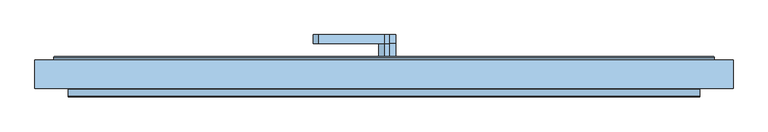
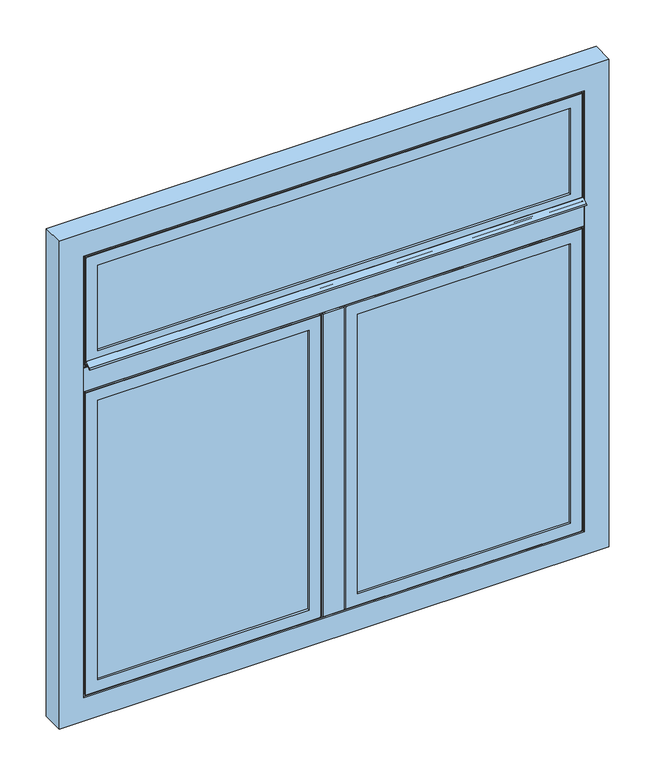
"""IFC4 building model written with IfcOpenShell, lengths in millimetres: window geometry, Dvikrilni prozor s nadsvjetlom : Dvikrilni prozor s nadsvjetlom."""

from ifc_helpers import new_model, si_unit, point, frame, frame_2d, origin, place, context, project, spatial, polyline, circle_curve, ellipse_curve, trimmed, segment, composite_curve, outline, extrude, faceted_brep, source, transform, mapped, element, save
from ifc_brep_helpers import plane_surface, cylinder_surface, advanced_brep


def window_308ad6bf(model_context):
    return source(origin(), model_context, "Body", "SolidModel", [
        advanced_brep(
        [(0.0, 82.9991261, 2246.0017887), (0.0, 82.9991261, 2221.0017887), (-150.0, 82.9991261, 2221.0017887), (-150.0, 82.9991261, 2246.0017887), (0.0, 62.9991261, 2221.0017887), (0.0, 62.9991261, 2246.0017887), (-150.0, 62.9991261, 2246.0017887), (-150.0, 62.9991261, 2221.0017887), (0.0, 32.9991261, 2246.0017887), (0.0, 32.9991261, 2221.0017887)],
        [
            (0, 1, circle_curve(frame((0.0, 82.9991261, 2233.5017887), z_axis=(0.0, 1.0, 0.0), x_axis=(0.0, 0.0, -1.0)), 12.5)),
            (1, 2),
            (2, 3, circle_curve(frame((-150.0, 82.9991261, 2233.5017887), z_axis=(0.0, 1.0, 0.0), x_axis=(0.0, 0.0, -1.0)), 12.5)),
            (3, 0),
            (4, 5, circle_curve(frame((0.0, 62.9991261, 2233.5017887), z_axis=(0.0, 1.0, 0.0), x_axis=(0.0, 0.0, -1.0)), 12.5)),
            (5, 6),
            (6, 7, circle_curve(frame((-150.0, 62.9991261, 2233.5017887), z_axis=(0.0, -1.0, 0.0), x_axis=(0.0, 0.0, -1.0)), 12.5)),
            (7, 4),
            (3, 6),
            (5, 0),
            (2, 7),
            (1, 4),
            (5, 4, circle_curve(frame((0.0, 62.9991261, 2233.5017887), z_axis=(0.0, 1.0, 0.0), x_axis=(0.0, 0.0, -1.0)), 12.5)),
            (8, 9, circle_curve(frame((0.0, 32.9991261, 2233.5017887), z_axis=(0.0, -1.0, 0.0), x_axis=(0.0, 0.0, -1.0)), 12.5)),
            (9, 8, circle_curve(frame((0.0, 32.9991261, 2233.5017887), z_axis=(0.0, -1.0, 0.0), x_axis=(0.0, 0.0, -1.0)), 12.5)),
            (8, 5),
            (4, 9),
        ],
        [
            plane_surface(frame((0.0, 82.9991261, 2246.0017887), z_axis=(0.0, 1.0, 0.0), x_axis=(-1.0, 0.0, 0.0))),
            plane_surface(frame((0.0, 62.9991261, 2246.0017887), z_axis=(0.0, -1.0, 0.0), x_axis=(1.0, 0.0, 0.0))),
            plane_surface(frame((0.0, 82.9991261, 2246.0017887), z_axis=(0.0, 0.0, 1.0), x_axis=(0.0, -1.0, 0.0))),
            cylinder_surface(frame((-150.0, 62.9991261, 2233.5017887), z_axis=(0.0, 1.0, 0.0), x_axis=(0.0, 0.0, -1.0)), 12.5),
            plane_surface(frame((-150.0, 82.9991261, 2221.0017887), z_axis=(0.0, 0.0, -1.0), x_axis=(0.0, -1.0, 0.0))),
            cylinder_surface(frame((0.0, 62.9991261, 2233.5017887), z_axis=(0.0, 1.0, 0.0), x_axis=(0.0, 0.0, -1.0)), 12.5),
            plane_surface(frame((0.0, 32.9991261, 2221.0017887), z_axis=(0.0, -1.0, 0.0), x_axis=(-1.0, 0.0, 0.0))),
            cylinder_surface(frame((0.0, 32.9991261, 2233.5017887), z_axis=(0.0, 1.0, 0.0), x_axis=(0.0, 0.0, -1.0)), 12.5),
        ],
        [
            (0, [[1, 2, 3, 4]]),
            (1, [[5, 6, 7, 8]]),
            (2, [[9, -6, 10, -4]]),
            (3, [[11, -7, -9, -3]]),
            (4, [[12, -8, -11, -2]]),
            (5, [[-10, 13, -12, -1]]),
            (6, [[14, 15]]),
            (7, [[16, -5, 17, -14]]),
            (7, [[-17, -13, -16, -15]]),
        ],
    ),
        extrude(outline(polyline([(-702.9996296, -33.0034524), (-702.9996296, 4.9964652), (702.9996296, 4.9964652), (702.9996296, -33.0034524), (-702.9996296, -33.0034524)])), frame((0.0, 0.0, 1919.5003704), z_axis=(0.0, 0.0, 1.0), x_axis=(1.0, 0.0, 0.0)), (0.0, 0.0, 1.0), 293.4992592),
        advanced_brep(
        [(722.7166787, -40.0008738, 2232.7166787), (722.7166787, -40.0008738, 1899.7833213), (723.5166787, -39.2008738, 1898.9833213), (723.5166787, -39.2008738, 2233.5166787), (687.9942611, -33.0034524, 2197.9942611), (687.9942611, -33.0034524, 1934.5057389), (687.9942611, -40.0008738, 1934.5057389), (687.9942611, -40.0008738, 2197.9942611), (702.9945196, 4.9964652, 2212.9945196), (702.9945196, 4.9964652, 1919.5054804), (702.9945196, -33.0034524, 1919.5054804), (702.9945196, -33.0034524, 2212.9945196), (687.9942611, 32.998105, 2197.9942611), (687.9942611, 32.998105, 1934.5057389), (687.9942611, 4.9964652, 1934.5057389), (687.9942611, 4.9964652, 2197.9942611), (756.4943766, 30.998105, 2266.4943766), (756.4943766, 30.998105, 1866.0056234), (754.4943766, 32.998105, 1868.0056234), (754.4943766, 32.998105, 2264.4943766), (756.4943766, 25.0022699, 2266.4943766), (756.4943766, 25.0022699, 1866.0056234), (738.9942671, -34.497265, 2248.9942671), (738.9942671, -34.497265, 1883.5057329), (738.9942671, 25.0022699, 1883.5057329), (738.9942671, 25.0022699, 2248.9942671), (723.5166787, -34.497265, 1898.9833213), (723.5166787, -34.497265, 2233.5166787), (-722.7166787, -40.0008738, 1899.7833213), (-723.5166787, -39.2008738, 1898.9833213), (-687.9942611, -33.0034524, 1934.5057389), (-687.9942611, -40.0008738, 1934.5057389), (-702.9945196, 4.9964652, 1919.5054804), (-702.9945196, -33.0034524, 1919.5054804), (-687.9942611, 32.998105, 1934.5057389), (-687.9942611, 4.9964652, 1934.5057389), (-756.4943766, 30.998105, 1866.0056234), (-754.4943766, 32.998105, 1868.0056234), (-756.4943766, 25.0022699, 1866.0056234), (-738.9942671, -34.497265, 1883.5057329), (-738.9942671, 25.0022699, 1883.5057329), (-723.5166787, -34.497265, 1898.9833213), (-722.7166787, -40.0008738, 2232.7166787), (-723.5166787, -39.2008738, 2233.5166787), (-687.9942611, -33.0034524, 2197.9942611), (-687.9942611, -40.0008738, 2197.9942611), (-702.9945196, 4.9964652, 2212.9945196), (-702.9945196, -33.0034524, 2212.9945196), (-687.9942611, 32.998105, 2197.9942611), (-687.9942611, 4.9964652, 2197.9942611), (-756.4943766, 30.998105, 2266.4943766), (-754.4943766, 32.998105, 2264.4943766), (-756.4943766, 25.0022699, 2266.4943766), (-738.9942671, -34.497265, 2248.9942671), (-738.9942671, 25.0022699, 2248.9942671), (-723.5166787, -34.497265, 2233.5166787)],
        [
            (0, 1),
            (1, 2, ellipse_curve(frame((722.7166787, -39.2008738, 1899.7833213), z_axis=(0.7071067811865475, 0.0, 0.7071067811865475), x_axis=(-0.7071067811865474, 0.0, 0.7071067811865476)), 1.1313708, 0.8)),
            (2, 3),
            (3, 0, ellipse_curve(frame((722.7166787, -39.2008738, 2232.7166787), z_axis=(0.7071067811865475, 0.0, -0.7071067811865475), x_axis=(0.7071067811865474, 0.0, 0.7071067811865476)), 1.1313708, 0.8)),
            (4, 5),
            (5, 6),
            (6, 7),
            (7, 4),
            (8, 9),
            (9, 10),
            (10, 11),
            (11, 8),
            (12, 13),
            (13, 14),
            (14, 15),
            (15, 12),
            (16, 17),
            (17, 18, ellipse_curve(frame((754.4943766, 30.998105, 1868.0056234), z_axis=(0.7071067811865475, 0.0, 0.7071067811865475), x_axis=(-0.7071067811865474, 0.0, 0.7071067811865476)), 2.8284271, 2.0)),
            (18, 19),
            (19, 16, ellipse_curve(frame((754.4943766, 30.998105, 2264.4943766), z_axis=(0.7071067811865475, 0.0, -0.7071067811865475), x_axis=(0.7071067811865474, 0.0, 0.7071067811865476)), 2.8284271, 2.0)),
            (20, 21),
            (21, 17),
            (16, 20),
            (22, 23),
            (23, 24),
            (24, 25),
            (25, 22),
            (2, 26),
            (26, 27),
            (27, 3),
            (1, 28),
            (28, 29, ellipse_curve(frame((-722.7166787, -39.2008738, 1899.7833213), z_axis=(0.7071067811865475, 0.0, -0.7071067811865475), x_axis=(0.7071067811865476, 0.0, 0.7071067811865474)), 1.1313708, 0.8)),
            (29, 2),
            (5, 30),
            (30, 31),
            (31, 6),
            (9, 32),
            (32, 33),
            (33, 10),
            (13, 34),
            (34, 35),
            (35, 14),
            (17, 36),
            (36, 37, ellipse_curve(frame((-754.4943766, 30.998105, 1868.0056234), z_axis=(0.7071067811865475, 0.0, -0.7071067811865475), x_axis=(0.7071067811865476, 0.0, 0.7071067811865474)), 2.8284271, 2.0)),
            (37, 18),
            (21, 38),
            (38, 36),
            (23, 39),
            (39, 40),
            (40, 24),
            (29, 41),
            (41, 26),
            (28, 42),
            (42, 43, ellipse_curve(frame((-722.7166787, -39.2008738, 2232.7166787), z_axis=(-0.7071067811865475, 0.0, -0.7071067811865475), x_axis=(0.7071067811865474, 0.0, -0.7071067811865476)), 1.1313708, 0.8)),
            (43, 29),
            (30, 44),
            (44, 45),
            (45, 31),
            (32, 46),
            (46, 47),
            (47, 33),
            (34, 48),
            (48, 49),
            (49, 35),
            (36, 50),
            (50, 51, ellipse_curve(frame((-754.4943766, 30.998105, 2264.4943766), z_axis=(-0.7071067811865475, 0.0, -0.7071067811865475), x_axis=(0.7071067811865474, 0.0, -0.7071067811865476)), 2.8284271, 2.0)),
            (51, 37),
            (38, 52),
            (52, 50),
            (39, 53),
            (53, 54),
            (54, 40),
            (43, 55),
            (55, 41),
            (42, 0),
            (3, 43),
            (45, 7),
            (44, 4),
            (47, 11),
            (46, 8),
            (49, 15),
            (48, 12),
            (51, 19),
            (50, 16),
            (52, 20),
            (54, 25),
            (53, 22),
            (55, 27),
        ],
        [
            cylinder_surface(frame((722.7166787, -39.2008738, 2310.0), z_axis=(0.0, 0.0, 1.0), x_axis=(0.0, -1.0, 0.0)), 0.8),
            plane_surface(frame((687.9942611, -40.0008738, 2197.9942611), z_axis=(-1.0, 0.0, 0.0), x_axis=(0.0, 0.0, -1.0))),
            plane_surface(frame((702.9945196, -33.0034524, 2212.9945196), z_axis=(-1.0, 0.0, 0.0), x_axis=(0.0, 0.0, -1.0))),
            plane_surface(frame((687.9942611, 4.9964652, 2197.9942611), z_axis=(-1.0, 0.0, 0.0), x_axis=(0.0, 0.0, -1.0))),
            cylinder_surface(frame((754.4943766, 30.998105, 2310.0), z_axis=(0.0, 0.0, 1.0), x_axis=(1.0, 0.0, 0.0)), 2.0),
            plane_surface(frame((756.4943766, 30.998105, 2266.4943766), z_axis=(1.0, 0.0, 0.0), x_axis=(0.0, 0.0, -1.0))),
            plane_surface(frame((738.9942671, 25.0022699, 2248.9942671), z_axis=(1.0, 0.0, 0.0), x_axis=(0.0, 0.0, -1.0))),
            plane_surface(frame((723.5166787, -34.497265, 2233.5166787), z_axis=(1.0, 0.0, 0.0), x_axis=(0.0, 0.0, -1.0))),
            cylinder_surface(frame((800.0, -39.2008738, 1899.7833213), z_axis=(1.0, 0.0, 0.0), x_axis=(0.0, -1.0, 0.0)), 0.8),
            plane_surface(frame((687.9942611, -40.0008738, 1934.5057389), z_axis=(0.0, 0.0, 1.0), x_axis=(-1.0, 0.0, 0.0))),
            plane_surface(frame((702.9945196, -33.0034524, 1919.5054804), z_axis=(0.0, 0.0, 1.0), x_axis=(-1.0, 0.0, 0.0))),
            plane_surface(frame((687.9942611, 4.9964652, 1934.5057389), z_axis=(0.0, 0.0, 1.0), x_axis=(-1.0, 0.0, 0.0))),
            cylinder_surface(frame((800.0, 30.998105, 1868.0056234), z_axis=(1.0, 0.0, 0.0), x_axis=(0.0, 0.0, -1.0)), 2.0),
            plane_surface(frame((756.4943766, 30.998105, 1866.0056234), z_axis=(0.0, 0.0, -1.0), x_axis=(-1.0, 0.0, 0.0))),
            plane_surface(frame((738.9942671, 25.0022699, 1883.5057329), z_axis=(0.0, 0.0, -1.0), x_axis=(-1.0, 0.0, 0.0))),
            plane_surface(frame((723.5166787, -34.497265, 1898.9833213), z_axis=(0.0, 0.0, -1.0), x_axis=(-1.0, 0.0, 0.0))),
            cylinder_surface(frame((-722.7166787, -39.2008738, 1822.5), z_axis=(0.0, 0.0, -1.0), x_axis=(0.0, -1.0, 0.0)), 0.8),
            plane_surface(frame((-687.9942611, -40.0008738, 1934.5057389), z_axis=(1.0, 0.0, 0.0), x_axis=(0.0, 0.0, 1.0))),
            plane_surface(frame((-702.9945196, -33.0034524, 1919.5054804), z_axis=(1.0, 0.0, 0.0), x_axis=(0.0, 0.0, 1.0))),
            plane_surface(frame((-687.9942611, 4.9964652, 1934.5057389), z_axis=(1.0, 0.0, 0.0), x_axis=(0.0, 0.0, 1.0))),
            cylinder_surface(frame((-754.4943766, 30.998105, 1822.5), z_axis=(0.0, 0.0, -1.0), x_axis=(-1.0, 0.0, 0.0)), 2.0),
            plane_surface(frame((-756.4943766, 30.998105, 1866.0056234), z_axis=(-1.0, 0.0, 0.0), x_axis=(0.0, 0.0, 1.0))),
            plane_surface(frame((-738.9942671, 25.0022699, 1883.5057329), z_axis=(-1.0, 0.0, 0.0), x_axis=(0.0, 0.0, 1.0))),
            plane_surface(frame((-723.5166787, -34.497265, 1898.9833213), z_axis=(-1.0, 0.0, 0.0), x_axis=(0.0, 0.0, 1.0))),
            cylinder_surface(frame((-800.0, -39.2008738, 2232.7166787), z_axis=(-1.0, 0.0, 0.0), x_axis=(0.0, -1.0, 0.0)), 0.8),
            plane_surface(frame((-722.7166787, -40.0008738, 2232.7166787), z_axis=(0.0, -1.0, 0.0), x_axis=(1.0, 0.0, 0.0))),
            plane_surface(frame((-687.9942611, -40.0008738, 2197.9942611), z_axis=(0.0, 0.0, -1.0), x_axis=(1.0, 0.0, 0.0))),
            plane_surface(frame((-687.9942611, -33.0034524, 2197.9942611), z_axis=(0.0, 1.0, 0.0), x_axis=(1.0, 0.0, 0.0))),
            plane_surface(frame((-702.9945196, -33.0034524, 2212.9945196), z_axis=(0.0, 0.0, -1.0), x_axis=(1.0, 0.0, 0.0))),
            plane_surface(frame((-702.9945196, 4.9964652, 2212.9945196), z_axis=(0.0, -1.0, 0.0), x_axis=(1.0, 0.0, 0.0))),
            plane_surface(frame((-687.9942611, 4.9964652, 2197.9942611), z_axis=(0.0, 0.0, -1.0), x_axis=(1.0, 0.0, 0.0))),
            plane_surface(frame((-687.9942611, 32.998105, 2197.9942611), z_axis=(0.0, 1.0, 0.0), x_axis=(1.0, 0.0, 0.0))),
            cylinder_surface(frame((-800.0, 30.998105, 2264.4943766), z_axis=(-1.0, 0.0, 0.0), x_axis=(0.0, 0.0, 1.0)), 2.0),
            plane_surface(frame((-756.4943766, 30.998105, 2266.4943766), z_axis=(0.0, 0.0, 1.0), x_axis=(1.0, 0.0, 0.0))),
            plane_surface(frame((-756.4943766, 25.0022699, 2266.4943766), z_axis=(0.0, -1.0, 0.0), x_axis=(1.0, 0.0, 0.0))),
            plane_surface(frame((-738.9942671, 25.0022699, 2248.9942671), z_axis=(0.0, 0.0, 1.0), x_axis=(1.0, 0.0, 0.0))),
            plane_surface(frame((-738.9942671, -34.497265, 2248.9942671), z_axis=(0.0, -1.0, 0.0), x_axis=(1.0, 0.0, 0.0))),
            plane_surface(frame((-723.5166787, -34.497265, 2233.5166787), z_axis=(0.0, 0.0, 1.0), x_axis=(1.0, 0.0, 0.0))),
        ],
        [
            (0, [[1, 2, 3, 4]]),
            (1, [[5, 6, 7, 8]]),
            (2, [[9, 10, 11, 12]]),
            (3, [[13, 14, 15, 16]]),
            (4, [[17, 18, 19, 20]]),
            (5, [[21, 22, -17, 23]]),
            (6, [[24, 25, 26, 27]]),
            (7, [[-3, 28, 29, 30]]),
            (8, [[31, 32, 33, -2]]),
            (9, [[34, 35, 36, -6]]),
            (10, [[37, 38, 39, -10]]),
            (11, [[40, 41, 42, -14]]),
            (12, [[43, 44, 45, -18]]),
            (13, [[46, 47, -43, -22]]),
            (14, [[48, 49, 50, -25]]),
            (15, [[-33, 51, 52, -28]]),
            (16, [[53, 54, 55, -32]]),
            (17, [[56, 57, 58, -35]]),
            (18, [[59, 60, 61, -38]]),
            (19, [[62, 63, 64, -41]]),
            (20, [[65, 66, 67, -44]]),
            (21, [[68, 69, -65, -47]]),
            (22, [[70, 71, 72, -49]]),
            (23, [[-55, 73, 74, -51]]),
            (24, [[75, -4, 76, -54]]),
            (25, [[-1, -75, -53, -31], [-7, -36, -58, 77]]),
            (26, [[78, -8, -77, -57]]),
            (27, [[-11, -39, -61, 79], [-5, -78, -56, -34]]),
            (28, [[80, -12, -79, -60]]),
            (29, [[-9, -80, -59, -37], [-15, -42, -64, 81]]),
            (30, [[82, -16, -81, -63]]),
            (31, [[-19, -45, -67, 83], [-13, -82, -62, -40]]),
            (32, [[84, -20, -83, -66]]),
            (33, [[85, -23, -84, -69]]),
            (34, [[-21, -85, -68, -46], [-26, -50, -72, 86]]),
            (35, [[87, -27, -86, -71]]),
            (36, [[-24, -87, -70, -48], [-29, -52, -74, 88]]),
            (37, [[-76, -30, -88, -73]]),
        ],
    ),
        extrude(outline(composite_curve([segment(polyline([(-58.5478309, 1898.9982113), (-59.9785357, 1898.9982113)]), True, "CONTINUOUS"), segment(trimmed(circle_curve(frame_2d((-55.7087925, 1899.5403327)), 4.3040217), [point((-59.9785357, 1898.9982113))], [point((-58.0008438, 1903.1832853))], False, "CARTESIAN"), True, "CONTINUOUS"), segment(polyline([(-58.0008438, 1903.1832853), (-41.0009048, 1912.9982273), (-40.0008738, 1912.9982273), (-40.0008738, 1898.9982113), (-41.4112864, 1898.9982113), (-41.4008678, 1901.9130223), (-45.4008802, 1908.8413742), (-57.4008741, 1901.9131205)]), True, "CONTINUOUS"), segment(trimmed(circle_curve(frame_2d((-55.4138384, 1899.4481562)), 3.1661269), [point((-57.4008741, 1901.9131205))], [point((-58.5478309, 1898.9982113))], True, "CARTESIAN"), True, "CONTINUOUS")], self_intersect=False)), frame((-723.5017887, 0.0, 0.0), z_axis=(1.0, 0.0, 0.0), x_axis=(0.0, 1.0, 0.0)), (0.0, 0.0, 1.0), 1447.0035774),
        advanced_brep(
        [(1.400143, 32.9958929, 1243.4), (26.400143, 32.9958929, 1243.4), (1.400143, 62.9958929, 1243.4), (26.400143, 62.9958929, 1243.4), (1.400143, 82.9958929, 1243.4), (26.400143, 82.9958929, 1243.4), (26.400143, 82.9958929, 1043.4), (1.400143, 82.9958929, 1043.4), (1.400143, 62.9958929, 1043.4), (26.400143, 62.9958929, 1043.4)],
        [
            (0, 1, circle_curve(frame((13.900143, 32.9958929, 1243.4), z_axis=(0.0, -1.0, 0.0), x_axis=(1.0, 0.0, 0.0)), 12.5)),
            (1, 0, circle_curve(frame((13.900143, 32.9958929, 1243.4), z_axis=(0.0, -1.0, 0.0), x_axis=(1.0, 0.0, 0.0)), 12.5)),
            (0, 2),
            (2, 3, circle_curve(frame((13.900143, 62.9958929, 1243.4), z_axis=(0.0, -1.0, 0.0), x_axis=(1.0, 0.0, 0.0)), 12.5)),
            (3, 1),
            (3, 2, circle_curve(frame((13.900143, 62.9958929, 1243.4), z_axis=(0.0, -1.0, 0.0), x_axis=(1.0, 0.0, 0.0)), 12.5)),
            (4, 5, circle_curve(frame((13.900143, 82.9958929, 1243.4), z_axis=(0.0, 1.0, 0.0), x_axis=(1.0, 0.0, 0.0)), 12.5)),
            (5, 6),
            (6, 7, circle_curve(frame((13.900143, 82.9958929, 1043.4), z_axis=(0.0, 1.0, 0.0), x_axis=(1.0, 0.0, 0.0)), 12.5)),
            (7, 4),
            (2, 8),
            (8, 9, circle_curve(frame((13.900143, 62.9958929, 1043.4), z_axis=(0.0, -1.0, 0.0), x_axis=(1.0, 0.0, 0.0)), 12.5)),
            (9, 3),
            (7, 8),
            (2, 4),
            (6, 9),
            (5, 3),
        ],
        [
            plane_surface(frame((26.400143, 32.9958929, 1243.4), z_axis=(0.0, -1.0, 0.0), x_axis=(0.0, 0.0, -1.0))),
            cylinder_surface(frame((13.900143, 32.9958929, 1243.4), z_axis=(0.0, 1.0, 0.0), x_axis=(1.0, 0.0, 0.0)), 12.5),
            plane_surface(frame((1.400143, 82.9958929, 1243.4), z_axis=(0.0, 1.0, 0.0), x_axis=(0.0, 0.0, -1.0))),
            plane_surface(frame((1.400143, 62.9958929, 1243.4), z_axis=(0.0, -1.0, 0.0), x_axis=(0.0, 0.0, 1.0))),
            plane_surface(frame((1.400143, 82.9958929, 1243.4), z_axis=(-1.0, 0.0, 0.0), x_axis=(0.0, -1.0, 0.0))),
            cylinder_surface(frame((13.900143, 62.9958929, 1043.4), z_axis=(0.0, 1.0, 0.0), x_axis=(1.0, 0.0, 0.0)), 12.5),
            plane_surface(frame((26.400143, 82.9958929, 1043.4), z_axis=(1.0, 0.0, 0.0), x_axis=(0.0, -1.0, 0.0))),
            cylinder_surface(frame((13.900143, 62.9958929, 1243.4), z_axis=(0.0, 1.0, 0.0), x_axis=(1.0, 0.0, 0.0)), 12.5),
        ],
        [
            (0, [[1, 2]]),
            (1, [[3, 4, 5, -1]]),
            (1, [[-5, 6, -3, -2]]),
            (2, [[7, 8, 9, 10]]),
            (3, [[-4, 11, 12, 13]]),
            (4, [[14, -11, 15, -10]]),
            (5, [[16, -12, -14, -9]]),
            (6, [[17, -13, -16, -8]]),
            (7, [[-15, -6, -17, -7]]),
        ],
    ),
        extrude(outline(polyline([(702.9945696, 4.9964364), (702.9945696, -33.0034813), (53.5, -33.0034813), (53.5, 4.9964364), (702.9945696, 4.9964364)])), frame((0.0, 0.0, 907.0054304), z_axis=(0.0, 0.0, 1.0), x_axis=(1.0, 0.0, 0.0)), (0.0, 0.0, 1.0), 889.4891393),
        advanced_brep(
        [(0.000193, 30.9980762, 1849.9943766), (0.000193, 30.9980762, 853.5056234), (0.000193, 25.0022411, 853.5056234), (0.000193, 25.0022411, 1849.9943766), (756.4943766, 25.0022411, 853.5056234), (756.4943766, 25.0022411, 1849.9943766), (17.5003025, 25.0022411, 871.0057329), (17.5003025, 25.0022411, 1832.4942671), (738.9942671, 25.0022411, 1832.4942671), (738.9942671, 25.0022411, 871.0057329), (756.4943766, 30.9980762, 853.5056234), (2.000193, 32.9980762, 1847.9943766), (2.000193, 32.9980762, 855.5056234), (17.5003025, -34.4972938, 871.0057329), (17.5003025, -34.4972938, 1832.4942671), (738.9942671, -34.4972938, 871.0057329), (738.9942671, -34.4972938, 1832.4942671), (32.9778909, -34.4972938, 886.4833213), (32.9778909, -34.4972938, 1817.0166787), (723.5166787, -34.4972938, 1817.0166787), (723.5166787, -34.4972938, 886.4833213), (32.9778909, -39.2009026, 886.4833213), (32.9778909, -39.2009026, 1817.0166787), (33.7778909, -40.0009026, 887.2833213), (33.7778909, -40.0009026, 1816.2166787), (723.5166787, -39.2009026, 886.4833213), (68.5003085, -40.0009026, 1781.4942611), (68.5003085, -40.0009026, 922.0057389), (68.5003085, -33.0034813, 922.0057389), (68.5003085, -33.0034813, 1781.4942611), (53.5000501, -33.0034813, 907.0054804), (53.5000501, -33.0034813, 1796.4945196), (702.9945196, -33.0034813, 1796.4945196), (702.9945196, -33.0034813, 907.0054804), (687.9942611, -33.0034813, 922.0057389), (687.9942611, -33.0034813, 1781.4942611), (687.9942611, -40.0009026, 922.0057389), (722.7166787, -40.0009026, 887.2833213), (722.7166787, -40.0009026, 1816.2166787), (687.9942611, -40.0009026, 1781.4942611), (53.5000501, 4.9964364, 907.0054804), (53.5000501, 4.9964364, 1796.4945196), (702.9945196, 4.9964364, 907.0054804), (702.9945196, 4.9964364, 1796.4945196), (68.5003085, 4.9964364, 922.0057389), (68.5003085, 4.9964364, 1781.4942611), (687.9942611, 4.9964364, 1781.4942611), (687.9942611, 4.9964364, 922.0057389), (68.5003085, 32.9980762, 922.0057389), (68.5003085, 32.9980762, 1781.4942611), (754.4943766, 32.9980762, 1847.9943766), (754.4943766, 32.9980762, 855.5056234), (687.9942611, 32.9980762, 922.0057389), (687.9942611, 32.9980762, 1781.4942611), (756.4943766, 30.9980762, 1849.9943766), (723.5166787, -39.2009026, 1817.0166787)],
        [
            (0, 1),
            (1, 2),
            (2, 3),
            (3, 0),
            (2, 4),
            (4, 5),
            (5, 3),
            (6, 7),
            (7, 8),
            (8, 9),
            (9, 6),
            (1, 10),
            (10, 4),
            (11, 12),
            (12, 1, ellipse_curve(frame((2.000193, 30.9980762, 855.5056234), z_axis=(-0.7071067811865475, 0.0, 0.7071067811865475), x_axis=(0.7071067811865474, 0.0, 0.7071067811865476)), 2.8284271, 2.0)),
            (0, 11, ellipse_curve(frame((2.000193, 30.9980762, 1847.9943766), z_axis=(-0.7071067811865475, 0.0, -0.7071067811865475), x_axis=(-0.7071067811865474, 0.0, 0.7071067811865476)), 2.8284271, 2.0)),
            (6, 13),
            (13, 14),
            (14, 7),
            (13, 15),
            (15, 16),
            (16, 14),
            (17, 18),
            (18, 19),
            (19, 20),
            (20, 17),
            (9, 15),
            (17, 21),
            (21, 22),
            (22, 18),
            (21, 23, ellipse_curve(frame((33.7778909, -39.2009026, 887.2833213), z_axis=(-0.7071067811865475, 0.0, 0.7071067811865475), x_axis=(0.7071067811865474, 0.0, 0.7071067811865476)), 1.1313708, 0.8)),
            (23, 24),
            (24, 22, ellipse_curve(frame((33.7778909, -39.2009026, 1816.2166787), z_axis=(-0.7071067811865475, 0.0, -0.7071067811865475), x_axis=(-0.7071067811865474, 0.0, 0.7071067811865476)), 1.1313708, 0.8)),
            (20, 25),
            (25, 21),
            (26, 27),
            (27, 28),
            (28, 29),
            (29, 26),
            (30, 31),
            (31, 32),
            (32, 33),
            (33, 30),
            (28, 34),
            (34, 35),
            (35, 29),
            (27, 36),
            (36, 34),
            (23, 37),
            (37, 38),
            (38, 24),
            (26, 39),
            (39, 36),
            (30, 40),
            (40, 41),
            (41, 31),
            (40, 42),
            (42, 43),
            (43, 41),
            (44, 45),
            (45, 46),
            (46, 47),
            (47, 44),
            (33, 42),
            (44, 48),
            (48, 49),
            (49, 45),
            (11, 50),
            (50, 51),
            (51, 12),
            (48, 52),
            (52, 53),
            (53, 49),
            (47, 52),
            (10, 54),
            (54, 5),
            (51, 10, ellipse_curve(frame((754.4943766, 30.9980762, 855.5056234), z_axis=(-0.7071067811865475, 0.0, -0.7071067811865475), x_axis=(-0.7071067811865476, 0.0, 0.7071067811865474)), 2.8284271, 2.0)),
            (8, 16),
            (25, 37, ellipse_curve(frame((722.7166787, -39.2009026, 887.2833213), z_axis=(-0.7071067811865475, 0.0, -0.7071067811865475), x_axis=(-0.7071067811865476, 0.0, 0.7071067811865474)), 1.1313708, 0.8)),
            (19, 55),
            (55, 25),
            (39, 35),
            (32, 43),
            (46, 53),
            (50, 54, ellipse_curve(frame((754.4943766, 30.9980762, 1847.9943766), z_axis=(0.7071067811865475, 0.0, -0.7071067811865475), x_axis=(-0.7071067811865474, 0.0, -0.7071067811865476)), 2.8284271, 2.0)),
            (55, 38, ellipse_curve(frame((722.7166787, -39.2009026, 1816.2166787), z_axis=(0.7071067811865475, 0.0, -0.7071067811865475), x_axis=(-0.7071067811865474, 0.0, -0.7071067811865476)), 1.1313708, 0.8)),
            (54, 0),
            (22, 55),
        ],
        [
            plane_surface(frame((0.000193, 25.0022411, 1849.9943766), z_axis=(-1.0, 0.0, 0.0), x_axis=(0.0, 0.0, -1.0))),
            plane_surface(frame((738.9942671, 25.0022411, 1832.4942671), z_axis=(0.0, -1.0, 0.0), x_axis=(-1.0, 0.0, 0.0))),
            plane_surface(frame((0.000193, 25.0022411, 853.5056234), z_axis=(0.0, 0.0, -1.0), x_axis=(1.0, 0.0, 0.0))),
            cylinder_surface(frame((2.000193, 30.9980762, 1893.5), z_axis=(0.0, 0.0, 1.0), x_axis=(-1.0, 0.0, 0.0)), 2.0),
            plane_surface(frame((17.5003025, -34.4972938, 1832.4942671), z_axis=(-1.0, 0.0, 0.0), x_axis=(0.0, 0.0, -1.0))),
            plane_surface(frame((723.5166787, -34.4972938, 1817.0166787), z_axis=(0.0, -1.0, 0.0), x_axis=(-1.0, 0.0, 0.0))),
            plane_surface(frame((17.5003025, -34.4972938, 871.0057329), z_axis=(0.0, 0.0, -1.0), x_axis=(1.0, 0.0, 0.0))),
            plane_surface(frame((32.9778909, -39.2009026, 1817.0166787), z_axis=(-1.0, 0.0, 0.0), x_axis=(0.0, 0.0, -1.0))),
            cylinder_surface(frame((33.7778909, -39.2009026, 1893.5), z_axis=(0.0, 0.0, 1.0), x_axis=(0.0, -1.0, 0.0)), 0.8),
            plane_surface(frame((32.9778909, -39.2009026, 886.4833213), z_axis=(0.0, 0.0, -1.0), x_axis=(1.0, 0.0, 0.0))),
            plane_surface(frame((68.5003085, -33.0034813, 1781.4942611), z_axis=(1.0, 0.0, 0.0), x_axis=(0.0, 0.0, -1.0))),
            plane_surface(frame((702.9945196, -33.0034813, 1796.4945196), z_axis=(0.0, 1.0, 0.0), x_axis=(-1.0, 0.0, 0.0))),
            plane_surface(frame((68.5003085, -33.0034813, 922.0057389), z_axis=(0.0, 0.0, 1.0), x_axis=(1.0, 0.0, 0.0))),
            plane_surface(frame((687.9942611, -40.0009026, 1781.4942611), z_axis=(0.0, -1.0, 0.0), x_axis=(-1.0, 0.0, 0.0))),
            plane_surface(frame((53.5000501, 4.9964364, 1796.4945196), z_axis=(1.0, 0.0, 0.0), x_axis=(0.0, 0.0, -1.0))),
            plane_surface(frame((687.9942611, 4.9964364, 1781.4942611), z_axis=(0.0, -1.0, 0.0), x_axis=(-1.0, 0.0, 0.0))),
            plane_surface(frame((53.5000501, 4.9964364, 907.0054804), z_axis=(0.0, 0.0, 1.0), x_axis=(1.0, 0.0, 0.0))),
            plane_surface(frame((68.5003085, 32.9980762, 1781.4942611), z_axis=(1.0, 0.0, 0.0), x_axis=(0.0, 0.0, -1.0))),
            plane_surface(frame((754.4943766, 32.9980762, 1847.9943766), z_axis=(0.0, 1.0, 0.0), x_axis=(-1.0, 0.0, 0.0))),
            plane_surface(frame((68.5003085, 32.9980762, 922.0057389), z_axis=(0.0, 0.0, 1.0), x_axis=(1.0, 0.0, 0.0))),
            plane_surface(frame((756.4943766, 25.0022411, 853.5056234), z_axis=(1.0, 0.0, 0.0), x_axis=(0.0, 0.0, 1.0))),
            cylinder_surface(frame((-43.5054304, 30.9980762, 855.5056234), z_axis=(-1.0, 0.0, 0.0), x_axis=(0.0, 0.0, -1.0)), 2.0),
            plane_surface(frame((738.9942671, -34.4972938, 871.0057329), z_axis=(1.0, 0.0, 0.0), x_axis=(0.0, 0.0, 1.0))),
            cylinder_surface(frame((-43.5054304, -39.2009026, 887.2833213), z_axis=(-1.0, 0.0, 0.0), x_axis=(0.0, -1.0, 0.0)), 0.8),
            plane_surface(frame((723.5166787, -39.2009026, 886.4833213), z_axis=(1.0, 0.0, 0.0), x_axis=(0.0, 0.0, 1.0))),
            plane_surface(frame((687.9942611, -33.0034813, 922.0057389), z_axis=(-1.0, 0.0, 0.0), x_axis=(0.0, 0.0, 1.0))),
            plane_surface(frame((702.9945196, 4.9964364, 907.0054804), z_axis=(-1.0, 0.0, 0.0), x_axis=(0.0, 0.0, 1.0))),
            plane_surface(frame((687.9942611, 32.9980762, 922.0057389), z_axis=(-1.0, 0.0, 0.0), x_axis=(0.0, 0.0, 1.0))),
            cylinder_surface(frame((754.4943766, 30.9980762, 810.0), z_axis=(0.0, 0.0, -1.0), x_axis=(1.0, 0.0, 0.0)), 2.0),
            cylinder_surface(frame((722.7166787, -39.2009026, 810.0), z_axis=(0.0, 0.0, -1.0), x_axis=(0.0, -1.0, 0.0)), 0.8),
            plane_surface(frame((756.4943766, 25.0022411, 1849.9943766), z_axis=(0.0, 0.0, 1.0), x_axis=(-1.0, 0.0, 0.0))),
            plane_surface(frame((738.9942671, -34.4972938, 1832.4942671), z_axis=(0.0, 0.0, 1.0), x_axis=(-1.0, 0.0, 0.0))),
            plane_surface(frame((723.5166787, -39.2009026, 1817.0166787), z_axis=(0.0, 0.0, 1.0), x_axis=(-1.0, 0.0, 0.0))),
            plane_surface(frame((687.9942611, -33.0034813, 1781.4942611), z_axis=(0.0, 0.0, -1.0), x_axis=(-1.0, 0.0, 0.0))),
            plane_surface(frame((702.9945196, 4.9964364, 1796.4945196), z_axis=(0.0, 0.0, -1.0), x_axis=(-1.0, 0.0, 0.0))),
            plane_surface(frame((687.9942611, 32.9980762, 1781.4942611), z_axis=(0.0, 0.0, -1.0), x_axis=(-1.0, 0.0, 0.0))),
            cylinder_surface(frame((800.0, 30.9980762, 1847.9943766), z_axis=(1.0, 0.0, 0.0), x_axis=(0.0, 0.0, 1.0)), 2.0),
            cylinder_surface(frame((800.0, -39.2009026, 1816.2166787), z_axis=(1.0, 0.0, 0.0), x_axis=(0.0, -1.0, 0.0)), 0.8),
        ],
        [
            (0, [[1, 2, 3, 4]]),
            (1, [[-3, 5, 6, 7], [8, 9, 10, 11]]),
            (2, [[12, 13, -5, -2]]),
            (3, [[14, 15, -1, 16]]),
            (4, [[-8, 17, 18, 19]]),
            (5, [[-18, 20, 21, 22], [23, 24, 25, 26]]),
            (6, [[-11, 27, -20, -17]]),
            (7, [[-23, 28, 29, 30]]),
            (8, [[-29, 31, 32, 33]]),
            (9, [[-26, 34, 35, -28]]),
            (10, [[36, 37, 38, 39]]),
            (11, [[40, 41, 42, 43], [-38, 44, 45, 46]]),
            (12, [[47, 48, -44, -37]]),
            (13, [[-32, 49, 50, 51], [-36, 52, 53, -47]]),
            (14, [[-40, 54, 55, 56]]),
            (15, [[-55, 57, 58, 59], [60, 61, 62, 63]]),
            (16, [[-43, 64, -57, -54]]),
            (17, [[-60, 65, 66, 67]]),
            (18, [[-14, 68, 69, 70], [-66, 71, 72, 73]]),
            (19, [[-63, 74, -71, -65]]),
            (20, [[75, 76, -6, -13]]),
            (21, [[-70, 77, -12, -15]]),
            (22, [[-10, 78, -21, -27]]),
            (23, [[-35, 79, -49, -31]]),
            (24, [[-25, 80, 81, -34]]),
            (25, [[-53, 82, -45, -48]]),
            (26, [[-42, 83, -58, -64]]),
            (27, [[-62, 84, -72, -74]]),
            (28, [[-69, 85, -75, -77]]),
            (29, [[-81, 86, -50, -79]]),
            (30, [[87, -4, -7, -76]]),
            (31, [[-9, -19, -22, -78]]),
            (32, [[-24, -30, 88, -80]]),
            (33, [[-52, -39, -46, -82]]),
            (34, [[-41, -56, -59, -83]]),
            (35, [[-61, -67, -73, -84]]),
            (36, [[-68, -16, -87, -85]]),
            (37, [[-88, -33, -51, -86]]),
        ],
    ),
        extrude(outline(polyline([(-22.4982197, 25.5079175), (6.0023691, 25.5079175), (6.0023691, -34.4900316), (27.9994894, -34.4900316), (27.9994894, -39.9935617), (-33.0005106, -39.9935617), (-33.0005106, -34.4900316), (-22.4983417, -34.4900316), (-22.4982197, 25.5079175)])), frame((0.0, 0.0, 886.5032713), z_axis=(0.0, 0.0, 1.0), x_axis=(1.0, 0.0, 0.0)), (0.0, 0.0, 1.0), 930.4934575),
        extrude(outline(polyline([(-58.499807, 4.9941954), (-58.499807, -33.0057223), (-702.9945696, -33.0057223), (-702.9945696, 4.9941954), (-58.499807, 4.9941954)])), frame((0.0, 0.0, 907.0054304), z_axis=(0.0, 0.0, 1.0), x_axis=(1.0, 0.0, 0.0)), (0.0, 0.0, 1.0), 889.4891393),
        advanced_brep(
        [(-5.0, 30.9958352, 853.5056234), (-5.0, 30.9958352, 1849.9943766), (-5.0, 25.0, 1849.9943766), (-5.0, 25.0, 853.5056234), (-756.4943766, 25.0, 1849.9943766), (-756.4943766, 25.0, 853.5056234), (-22.5001095, 25.0, 1832.4942671), (-22.5001095, 25.0, 871.0057329), (-738.9942671, 25.0, 871.0057329), (-738.9942671, 25.0, 1832.4942671), (-756.4943766, 30.9958352, 1849.9943766), (-7.0, 32.9958352, 855.5056234), (-7.0, 32.9958352, 1847.9943766), (-22.5001095, -34.4995349, 1832.4942671), (-22.5001095, -34.4995349, 871.0057329), (-738.9942671, -34.4995349, 1832.4942671), (-738.9942671, -34.4995349, 871.0057329), (-37.9776978, -34.4995349, 1817.0166787), (-37.9776978, -34.4995349, 886.4833213), (-723.5166787, -34.4995349, 886.4833213), (-723.5166787, -34.4995349, 1817.0166787), (-37.9776978, -39.2031436, 1817.0166787), (-37.9776978, -39.2031436, 886.4833213), (-38.7776978, -40.0031436, 1816.2166787), (-38.7776978, -40.0031436, 887.2833213), (-723.5166787, -39.2031436, 1817.0166787), (-73.5001155, -40.0031436, 922.0057389), (-73.5001155, -40.0031436, 1781.4942611), (-73.5001155, -33.0057223, 1781.4942611), (-73.5001155, -33.0057223, 922.0057389), (-58.499857, -33.0057223, 1796.4945196), (-58.499857, -33.0057223, 907.0054804), (-702.9945196, -33.0057223, 907.0054804), (-702.9945196, -33.0057223, 1796.4945196), (-687.9942611, -33.0057223, 1781.4942611), (-687.9942611, -33.0057223, 922.0057389), (-687.9942611, -40.0031436, 1781.4942611), (-722.7166787, -40.0031436, 1816.2166787), (-722.7166787, -40.0031436, 887.2833213), (-687.9942611, -40.0031436, 922.0057389), (-58.499857, 4.9941954, 1796.4945196), (-58.499857, 4.9941954, 907.0054804), (-702.9945196, 4.9941954, 1796.4945196), (-702.9945196, 4.9941954, 907.0054804), (-73.5001155, 4.9941954, 1781.4942611), (-73.5001155, 4.9941954, 922.0057389), (-687.9942611, 4.9941954, 922.0057389), (-687.9942611, 4.9941954, 1781.4942611), (-73.5001155, 32.9958352, 1781.4942611), (-73.5001155, 32.9958352, 922.0057389), (-754.4943766, 32.9958352, 855.5056234), (-754.4943766, 32.9958352, 1847.9943766), (-687.9942611, 32.9958352, 1781.4942611), (-687.9942611, 32.9958352, 922.0057389), (-756.4943766, 30.9958352, 853.5056234), (-723.5166787, -39.2031436, 886.4833213)],
        [
            (0, 1),
            (1, 2),
            (2, 3),
            (3, 0),
            (2, 4),
            (4, 5),
            (5, 3),
            (6, 7),
            (7, 8),
            (8, 9),
            (9, 6),
            (1, 10),
            (10, 4),
            (11, 12),
            (12, 1, ellipse_curve(frame((-7.0, 30.9958352, 1847.9943766), z_axis=(0.7071067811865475, 0.0, -0.7071067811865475), x_axis=(-0.7071067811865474, 0.0, -0.7071067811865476)), 2.8284271, 2.0)),
            (0, 11, ellipse_curve(frame((-7.0, 30.9958352, 855.5056234), z_axis=(0.7071067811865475, 0.0, 0.7071067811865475), x_axis=(0.7071067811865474, 0.0, -0.7071067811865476)), 2.8284271, 2.0)),
            (6, 13),
            (13, 14),
            (14, 7),
            (13, 15),
            (15, 16),
            (16, 14),
            (17, 18),
            (18, 19),
            (19, 20),
            (20, 17),
            (9, 15),
            (17, 21),
            (21, 22),
            (22, 18),
            (21, 23, ellipse_curve(frame((-38.7776978, -39.2031436, 1816.2166787), z_axis=(0.7071067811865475, 0.0, -0.7071067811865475), x_axis=(-0.7071067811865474, 0.0, -0.7071067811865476)), 1.1313708, 0.8)),
            (23, 24),
            (24, 22, ellipse_curve(frame((-38.7776978, -39.2031436, 887.2833213), z_axis=(0.7071067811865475, 0.0, 0.7071067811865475), x_axis=(0.7071067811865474, 0.0, -0.7071067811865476)), 1.1313708, 0.8)),
            (20, 25),
            (25, 21),
            (26, 27),
            (27, 28),
            (28, 29),
            (29, 26),
            (30, 31),
            (31, 32),
            (32, 33),
            (33, 30),
            (28, 34),
            (34, 35),
            (35, 29),
            (27, 36),
            (36, 34),
            (23, 37),
            (37, 38),
            (38, 24),
            (26, 39),
            (39, 36),
            (30, 40),
            (40, 41),
            (41, 31),
            (40, 42),
            (42, 43),
            (43, 41),
            (44, 45),
            (45, 46),
            (46, 47),
            (47, 44),
            (33, 42),
            (44, 48),
            (48, 49),
            (49, 45),
            (11, 50),
            (50, 51),
            (51, 12),
            (48, 52),
            (52, 53),
            (53, 49),
            (47, 52),
            (10, 54),
            (54, 5),
            (51, 10, ellipse_curve(frame((-754.4943766, 30.9958352, 1847.9943766), z_axis=(0.7071067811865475, 0.0, 0.7071067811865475), x_axis=(0.7071067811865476, 0.0, -0.7071067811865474)), 2.8284271, 2.0)),
            (8, 16),
            (25, 37, ellipse_curve(frame((-722.7166787, -39.2031436, 1816.2166787), z_axis=(0.7071067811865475, 0.0, 0.7071067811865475), x_axis=(0.7071067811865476, 0.0, -0.7071067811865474)), 1.1313708, 0.8)),
            (19, 55),
            (55, 25),
            (39, 35),
            (32, 43),
            (46, 53),
            (50, 54, ellipse_curve(frame((-754.4943766, 30.9958352, 855.5056234), z_axis=(-0.7071067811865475, 0.0, 0.7071067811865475), x_axis=(0.7071067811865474, 0.0, 0.7071067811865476)), 2.8284271, 2.0)),
            (55, 38, ellipse_curve(frame((-722.7166787, -39.2031436, 887.2833213), z_axis=(-0.7071067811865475, 0.0, 0.7071067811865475), x_axis=(0.7071067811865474, 0.0, 0.7071067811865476)), 1.1313708, 0.8)),
            (54, 0),
            (22, 55),
        ],
        [
            plane_surface(frame((-5.0, 25.0, 853.5056234), z_axis=(1.0, 0.0, 0.0), x_axis=(0.0, 0.0, 1.0))),
            plane_surface(frame((-738.9942671, 25.0, 871.0057329), z_axis=(0.0, -1.0, 0.0), x_axis=(1.0, 0.0, 0.0))),
            plane_surface(frame((-5.0, 25.0, 1849.9943766), z_axis=(0.0, 0.0, 1.0), x_axis=(-1.0, 0.0, 0.0))),
            cylinder_surface(frame((-7.0, 30.9958352, 810.0), z_axis=(0.0, 0.0, -1.0), x_axis=(1.0, 0.0, 0.0)), 2.0),
            plane_surface(frame((-22.5001095, -34.4995349, 871.0057329), z_axis=(1.0, 0.0, 0.0), x_axis=(0.0, 0.0, 1.0))),
            plane_surface(frame((-723.5166787, -34.4995349, 886.4833213), z_axis=(0.0, -1.0, 0.0), x_axis=(1.0, 0.0, 0.0))),
            plane_surface(frame((-22.5001095, -34.4995349, 1832.4942671), z_axis=(0.0, 0.0, 1.0), x_axis=(-1.0, 0.0, 0.0))),
            plane_surface(frame((-37.9776978, -39.2031436, 886.4833213), z_axis=(1.0, 0.0, 0.0), x_axis=(0.0, 0.0, 1.0))),
            cylinder_surface(frame((-38.7776978, -39.2031436, 810.0), z_axis=(0.0, 0.0, -1.0), x_axis=(0.0, -1.0, 0.0)), 0.8),
            plane_surface(frame((-37.9776978, -39.2031436, 1817.0166787), z_axis=(0.0, 0.0, 1.0), x_axis=(-1.0, 0.0, 0.0))),
            plane_surface(frame((-73.5001155, -33.0057223, 922.0057389), z_axis=(-1.0, 0.0, 0.0), x_axis=(0.0, 0.0, 1.0))),
            plane_surface(frame((-702.9945196, -33.0057223, 907.0054804), z_axis=(0.0, 1.0, 0.0), x_axis=(1.0, 0.0, 0.0))),
            plane_surface(frame((-73.5001155, -33.0057223, 1781.4942611), z_axis=(0.0, 0.0, -1.0), x_axis=(-1.0, 0.0, 0.0))),
            plane_surface(frame((-687.9942611, -40.0031436, 922.0057389), z_axis=(0.0, -1.0, 0.0), x_axis=(1.0, 0.0, 0.0))),
            plane_surface(frame((-58.499857, 4.9941954, 907.0054804), z_axis=(-1.0, 0.0, 0.0), x_axis=(0.0, 0.0, 1.0))),
            plane_surface(frame((-687.9942611, 4.9941954, 922.0057389), z_axis=(0.0, -1.0, 0.0), x_axis=(1.0, 0.0, 0.0))),
            plane_surface(frame((-58.499857, 4.9941954, 1796.4945196), z_axis=(0.0, 0.0, -1.0), x_axis=(-1.0, 0.0, 0.0))),
            plane_surface(frame((-73.5001155, 32.9958352, 922.0057389), z_axis=(-1.0, 0.0, 0.0), x_axis=(0.0, 0.0, 1.0))),
            plane_surface(frame((-754.4943766, 32.9958352, 855.5056234), z_axis=(0.0, 1.0, 0.0), x_axis=(1.0, 0.0, 0.0))),
            plane_surface(frame((-73.5001155, 32.9958352, 1781.4942611), z_axis=(0.0, 0.0, -1.0), x_axis=(-1.0, 0.0, 0.0))),
            plane_surface(frame((-756.4943766, 25.0, 1849.9943766), z_axis=(-1.0, 0.0, 0.0), x_axis=(0.0, 0.0, -1.0))),
            cylinder_surface(frame((38.5056234, 30.9958352, 1847.9943766), z_axis=(1.0, 0.0, 0.0), x_axis=(0.0, 0.0, 1.0)), 2.0),
            plane_surface(frame((-738.9942671, -34.4995349, 1832.4942671), z_axis=(-1.0, 0.0, 0.0), x_axis=(0.0, 0.0, -1.0))),
            cylinder_surface(frame((38.5056234, -39.2031436, 1816.2166787), z_axis=(1.0, 0.0, 0.0), x_axis=(0.0, -1.0, 0.0)), 0.8),
            plane_surface(frame((-723.5166787, -39.2031436, 1817.0166787), z_axis=(-1.0, 0.0, 0.0), x_axis=(0.0, 0.0, -1.0))),
            plane_surface(frame((-687.9942611, -33.0057223, 1781.4942611), z_axis=(1.0, 0.0, 0.0), x_axis=(0.0, 0.0, -1.0))),
            plane_surface(frame((-702.9945196, 4.9941954, 1796.4945196), z_axis=(1.0, 0.0, 0.0), x_axis=(0.0, 0.0, -1.0))),
            plane_surface(frame((-687.9942611, 32.9958352, 1781.4942611), z_axis=(1.0, 0.0, 0.0), x_axis=(0.0, 0.0, -1.0))),
            cylinder_surface(frame((-754.4943766, 30.9958352, 1893.5), z_axis=(0.0, 0.0, 1.0), x_axis=(-1.0, 0.0, 0.0)), 2.0),
            cylinder_surface(frame((-722.7166787, -39.2031436, 1893.5), z_axis=(0.0, 0.0, 1.0), x_axis=(0.0, -1.0, 0.0)), 0.8),
            plane_surface(frame((-756.4943766, 25.0, 853.5056234), z_axis=(0.0, 0.0, -1.0), x_axis=(1.0, 0.0, 0.0))),
            plane_surface(frame((-738.9942671, -34.4995349, 871.0057329), z_axis=(0.0, 0.0, -1.0), x_axis=(1.0, 0.0, 0.0))),
            plane_surface(frame((-723.5166787, -39.2031436, 886.4833213), z_axis=(0.0, 0.0, -1.0), x_axis=(1.0, 0.0, 0.0))),
            plane_surface(frame((-687.9942611, -33.0057223, 922.0057389), z_axis=(0.0, 0.0, 1.0), x_axis=(1.0, 0.0, 0.0))),
            plane_surface(frame((-702.9945196, 4.9941954, 907.0054804), z_axis=(0.0, 0.0, 1.0), x_axis=(1.0, 0.0, 0.0))),
            plane_surface(frame((-687.9942611, 32.9958352, 922.0057389), z_axis=(0.0, 0.0, 1.0), x_axis=(1.0, 0.0, 0.0))),
            cylinder_surface(frame((-800.0, 30.9958352, 855.5056234), z_axis=(-1.0, 0.0, 0.0), x_axis=(0.0, 0.0, -1.0)), 2.0),
            cylinder_surface(frame((-800.0, -39.2031436, 887.2833213), z_axis=(-1.0, 0.0, 0.0), x_axis=(0.0, -1.0, 0.0)), 0.8),
        ],
        [
            (0, [[1, 2, 3, 4]]),
            (1, [[-3, 5, 6, 7], [8, 9, 10, 11]]),
            (2, [[12, 13, -5, -2]]),
            (3, [[14, 15, -1, 16]]),
            (4, [[-8, 17, 18, 19]]),
            (5, [[-18, 20, 21, 22], [23, 24, 25, 26]]),
            (6, [[-11, 27, -20, -17]]),
            (7, [[-23, 28, 29, 30]]),
            (8, [[-29, 31, 32, 33]]),
            (9, [[-26, 34, 35, -28]]),
            (10, [[36, 37, 38, 39]]),
            (11, [[40, 41, 42, 43], [-38, 44, 45, 46]]),
            (12, [[47, 48, -44, -37]]),
            (13, [[-32, 49, 50, 51], [-36, 52, 53, -47]]),
            (14, [[-40, 54, 55, 56]]),
            (15, [[-55, 57, 58, 59], [60, 61, 62, 63]]),
            (16, [[-43, 64, -57, -54]]),
            (17, [[-60, 65, 66, 67]]),
            (18, [[-14, 68, 69, 70], [-66, 71, 72, 73]]),
            (19, [[-63, 74, -71, -65]]),
            (20, [[75, 76, -6, -13]]),
            (21, [[-70, 77, -12, -15]]),
            (22, [[-10, 78, -21, -27]]),
            (23, [[-35, 79, -49, -31]]),
            (24, [[-25, 80, 81, -34]]),
            (25, [[-53, 82, -45, -48]]),
            (26, [[-42, 83, -58, -64]]),
            (27, [[-62, 84, -72, -74]]),
            (28, [[-69, 85, -75, -77]]),
            (29, [[-81, 86, -50, -79]]),
            (30, [[87, -4, -7, -76]]),
            (31, [[-9, -19, -22, -78]]),
            (32, [[-24, -30, 88, -80]]),
            (33, [[-52, -39, -46, -82]]),
            (34, [[-41, -56, -59, -83]]),
            (35, [[-61, -67, -73, -84]]),
            (36, [[-68, -16, -87, -85]]),
            (37, [[-88, -33, -51, -86]]),
        ],
    ),
        faceted_brep([(-728.5000448, -40.0601119, 2238.5000448), (-728.5000448, -40.0601119, 881.4999552), (-728.5000448, -35.4974884, 881.4999552), (-728.5000448, -35.4974884, 1822.0001798), (-728.5000448, -39.5003779, 1822.0001798), (-728.5000448, -39.5003779, 1894.0), (-728.5000448, -35.4974884, 1894.0), (-728.5000448, -35.4974884, 2238.5000448), (750.499939, -35.4974884, 2260.499939), (750.499939, -35.4974884, 1894.0), (728.5000448, -35.4974884, 1894.0), (728.5000448, -35.4974884, 2238.5000448), (-750.499939, -35.4974884, 1894.0), (-750.499939, -35.4974884, 2260.499939), (728.5000448, -35.4974884, 881.4999552), (728.5000448, -35.4974884, 1822.0001798), (750.499939, -35.4974884, 1822.0001798), (750.499939, -35.4974884, 859.500061), (-750.499939, -35.4974884, 859.500061), (-750.499939, -35.4974884, 1822.0001798), (728.5000448, -40.0601119, 881.4999552), (-800.0, -40.0601119, 810.0), (800.0, -40.0601119, 810.0), (800.0, -40.0601119, 2310.0), (-800.0, -40.0601119, 2310.0), (728.5000448, -40.0601119, 2238.5000448), (-800.0, 25.0, 810.0), (-800.0, 25.0, 2310.0), (800.0, 25.0, 2310.0), (800.0, 25.0, 810.0), (750.499939, 25.0, 859.500061), (750.499939, 25.0, 1844.0001431), (-750.499939, 25.0, 1844.0001431), (-750.499939, 25.0, 859.500061), (750.499939, 25.0, 2260.499939), (-750.499939, 25.0, 2260.499939), (-750.499939, 25.0, 1872.0002051), (750.499939, 25.0, 1872.0002051), (-750.499939, -34.494149, 1894.0), (-750.499939, -34.494149, 1872.0002051), (-750.499939, -34.4967196, 1844.0001431), (-750.499939, -34.4967196, 1822.0001798), (728.5000448, -39.5003779, 1894.0), (728.5000448, -39.5003779, 1822.0001798), (750.499939, -34.4967196, 1822.0001798), (750.499939, -34.4967196, 1844.0001431), (750.499939, -34.494149, 1872.0002051), (750.499939, -34.494149, 1894.0)], [[[0, 1, 2, 3, 4, 5, 6, 7]], [[8, 9, 10, 11, 7, 6, 12, 13]], [[14, 15, 16, 17, 18, 19, 3, 2]], [[1, 20, 14, 2]], [[21, 22, 23, 24], [0, 25, 20, 1]], [[26, 27, 28, 29], [30, 31, 32, 33], [34, 35, 36, 37]], [[26, 21, 24, 27]], [[26, 29, 22, 21]], [[13, 12, 38, 39, 36, 35]], [[33, 32, 40, 41, 19, 18]], [[18, 17, 30, 33]], [[20, 25, 11, 10, 42, 43, 15, 14]], [[28, 23, 22, 29]], [[17, 16, 44, 45, 31, 30]], [[34, 37, 46, 47, 9, 8]], [[7, 11, 25, 0]], [[24, 23, 28, 27]], [[35, 34, 8, 13]], [[39, 38, 47, 46]], [[38, 12, 6, 5, 42, 10, 9, 47]], [[5, 4, 43, 42]], [[4, 3, 19, 41, 44, 16, 15, 43]], [[41, 40, 45, 44]], [[31, 45, 40, 32]], [[36, 39, 46, 37]]]),
    ])


if __name__ == "__main__":
    model = new_model("IFC4")
    model_context = context("Model", 3, world=origin())
    ifc_project = project(units=[si_unit("LENGTHUNIT", "METRE", prefix="MILLI")], contexts=[model_context])
    site = spatial("IfcSite", under=ifc_project)
    building = spatial("IfcBuilding", under=site)
    placement = place(None, origin())
    window_shape = window_308ad6bf(model_context)
    element("IfcWindow", 1, ObjectType="Dvikrilni prozor s nadsvjetlom : Dvikrilni prozor s nadsvjetlom", at=placement, inside=building, context=model_context, shape_type="MappedRepresentation", body=[
        mapped(window_shape, transform((0.0, 0.0, 0.0), x_axis=(1.0, 0.0, 0.0), y_axis=(0.0, 1.0, 0.0), z_axis=(0.0, 0.0, 1.0))),
    ])
    save(model, "model.ifc")
